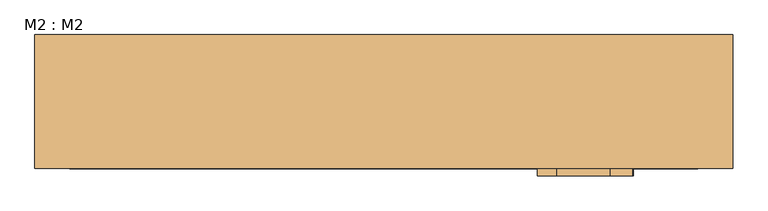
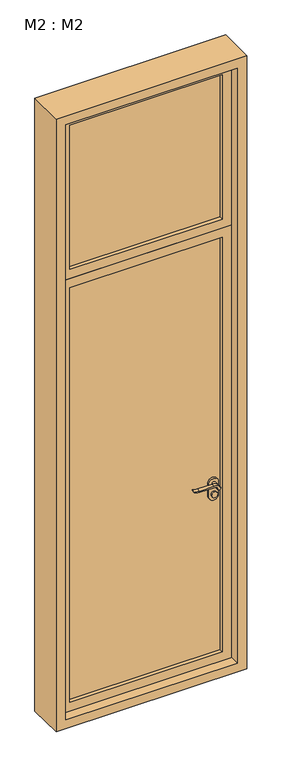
"""IFC4 building model written with IfcOpenShell, lengths in millimetres: door geometry, M2 : M2."""

from ifc_helpers import new_model, si_unit, point, frame, frame_2d, origin, place, context, project, spatial, polyline, circle_curve, trimmed, segment, composite_curve, outline, extrude, source, transform, mapped, element, save


def m2_m2_dfb05117(model_context):
    return source(origin(), model_context, "Body", "SweptSolid", [
        extrude(outline(composite_curve([segment(trimmed(circle_curve(frame_2d((1000.0, 350.0)), 15.0), [point((1000.0, 335.0))], [point((1000.0, 365.0))], False, "CARTESIAN"), True, "CONTINUOUS"), segment(trimmed(circle_curve(frame_2d((1000.0, 350.0)), 15.0), [point((1000.0, 365.0))], [point((1000.0, 335.0))], False, "CARTESIAN"), True, "CONTINUOUS")], self_intersect=False)), frame((0.0, -45.0, 0.0), z_axis=(0.0, 1.0, 0.0), x_axis=(0.0, 0.0, 1.0)), (0.0, 0.0, 1.0), 10.0),
        extrude(outline(composite_curve([segment(trimmed(circle_curve(frame_2d((1000.0, 350.0)), 15.0), [point((1000.0, 335.0))], [point((1000.0, 365.0))], False, "CARTESIAN"), True, "CONTINUOUS"), segment(trimmed(circle_curve(frame_2d((1000.0, 350.0)), 15.0), [point((1000.0, 365.0))], [point((1000.0, 335.0))], False, "CARTESIAN"), True, "CONTINUOUS")], self_intersect=False)), frame((0.0, 35.0, 0.0), z_axis=(0.0, 1.0, 0.0), x_axis=(0.0, 0.0, 1.0)), (0.0, 0.0, 1.0), 10.0),
        extrude(outline(composite_curve([segment(trimmed(circle_curve(frame_2d((1042.7555521, 326.3324871)), 37.2832219), [point((1064.6523287, 356.5081363))], [point((1080.0, 324.6325667))], False, "CARTESIAN"), True, "CONTINUOUS"), segment(polyline([(1080.0, 324.6325667), (1080.0, 248.3564091)]), True, "CONTINUOUS"), segment(trimmed(circle_curve(frame_2d((1163.2850638, 248.4227909)), 83.2850902), [point((1080.0, 248.3564091))], [point((1085.0, 220.0))], True, "CARTESIAN"), True, "CONTINUOUS"), segment(polyline([(1085.0, 220.0), (1082.2135558, 220.0)]), True, "CONTINUOUS"), segment(trimmed(circle_curve(frame_2d((1132.2709207, 251.9396612)), 59.3791355), [point((1082.2135558, 220.0))], [point((1073.0, 248.3564091))], False, "CARTESIAN"), True, "CONTINUOUS"), segment(polyline([(1073.0, 248.3564091), (1073.0, 324.6138099)]), True, "CONTINUOUS"), segment(trimmed(circle_curve(frame_2d((1054.8738613, 324.6138099)), 18.1261387), [point((1073.0, 324.6138099))], [point((1060.0, 342.0))], True, "CARTESIAN"), True, "CONTINUOUS"), segment(trimmed(circle_curve(frame_2d((1060.0, 350.0)), 8.0), [point((1060.0, 342.0))], [point((1064.6523287, 356.5081363))], False, "CARTESIAN"), True, "CONTINUOUS")], self_intersect=False)), frame((0.0, -85.0, 0.0), z_axis=(0.0, 1.0, 0.0), x_axis=(0.0, 0.0, 1.0)), (0.0, 0.0, 1.0), 20.0),
        extrude(outline(composite_curve([segment(trimmed(circle_curve(frame_2d((1060.0, 350.0)), 8.0), [point((1059.9999903, 342.0))], [point((1064.6523287, 356.5081363))], False, "CARTESIAN"), True, "CONTINUOUS"), segment(trimmed(circle_curve(frame_2d((1042.7555521, 326.3324871)), 37.2832219), [point((1064.6523287, 356.5081363))], [point((1080.0, 324.6325667))], False, "CARTESIAN"), True, "CONTINUOUS"), segment(polyline([(1080.0, 324.6325667), (1080.0, 248.3564091)]), True, "CONTINUOUS"), segment(trimmed(circle_curve(frame_2d((1163.2850638, 248.4227909)), 83.2850902), [point((1080.0, 248.3564091))], [point((1085.0, 220.0))], True, "CARTESIAN"), True, "CONTINUOUS"), segment(polyline([(1085.0, 220.0), (1082.2135558, 220.0)]), True, "CONTINUOUS"), segment(trimmed(circle_curve(frame_2d((1132.2709207, 251.9396612)), 59.3791355), [point((1082.2135558, 220.0))], [point((1073.0, 248.3564091))], False, "CARTESIAN"), True, "CONTINUOUS"), segment(polyline([(1073.0, 248.3564091), (1073.0, 324.6138122)]), True, "CONTINUOUS"), segment(trimmed(circle_curve(frame_2d((1054.8738682, 324.6138122)), 18.1261318), [point((1073.0, 324.6138122))], [point((1059.9999903, 342.0))], True, "CARTESIAN"), True, "CONTINUOUS")], self_intersect=False)), frame((0.0, 65.0, 0.0), z_axis=(0.0, 1.0, 0.0), x_axis=(0.0, 0.0, 1.0)), (0.0, 0.0, 1.0), 20.0),
        extrude(outline(composite_curve([segment(trimmed(circle_curve(frame_2d((1060.0, 350.0)), 8.0), [point((1060.0, 342.0))], [point((1060.0, 358.0))], False, "CARTESIAN"), True, "CONTINUOUS"), segment(trimmed(circle_curve(frame_2d((1060.0, 350.0)), 8.0), [point((1060.0, 358.0))], [point((1060.0, 342.0))], False, "CARTESIAN"), True, "CONTINUOUS")], self_intersect=False)), frame((0.0, -65.0, 0.0), z_axis=(0.0, 1.0, 0.0), x_axis=(0.0, 0.0, 1.0)), (0.0, 0.0, 1.0), 30.0),
        extrude(outline(composite_curve([segment(trimmed(circle_curve(frame_2d((1060.0, 350.0)), 8.0), [point((1060.0, 342.0))], [point((1060.0, 358.0))], False, "CARTESIAN"), True, "CONTINUOUS"), segment(trimmed(circle_curve(frame_2d((1060.0, 350.0)), 8.0), [point((1060.0, 358.0))], [point((1060.0, 342.0))], False, "CARTESIAN"), True, "CONTINUOUS")], self_intersect=False)), frame((0.0, 35.0, 0.0), z_axis=(0.0, 1.0, 0.0), x_axis=(0.0, 0.0, 1.0)), (0.0, 0.0, 1.0), 30.0),
        extrude(outline(composite_curve([segment(polyline([(990.0, 375.0), (1060.0, 375.0)]), True, "CONTINUOUS"), segment(trimmed(circle_curve(frame_2d((1060.0, 350.0)), 25.0), [point((1060.0, 375.0))], [point((1060.0, 325.0))], False, "CARTESIAN"), True, "CONTINUOUS"), segment(polyline([(1060.0, 325.0), (990.0, 325.0)]), True, "CONTINUOUS"), segment(trimmed(circle_curve(frame_2d((990.0, 350.0)), 25.0), [point((990.0, 325.0))], [point((990.0, 375.0))], False, "CARTESIAN"), True, "CONTINUOUS")], self_intersect=False)), frame((0.0, -35.0, 0.0), z_axis=(0.0, 1.0, 0.0), x_axis=(0.0, 0.0, 1.0)), (0.0, 0.0, 1.0), 10.0),
        extrude(outline(composite_curve([segment(polyline([(990.0, 375.0), (1060.0, 375.0)]), True, "CONTINUOUS"), segment(trimmed(circle_curve(frame_2d((1060.0, 350.0)), 25.0), [point((1060.0, 375.0))], [point((1060.0, 325.0))], False, "CARTESIAN"), True, "CONTINUOUS"), segment(polyline([(1060.0, 325.0), (990.0, 325.0)]), True, "CONTINUOUS"), segment(trimmed(circle_curve(frame_2d((990.0, 350.0)), 25.0), [point((990.0, 325.0))], [point((990.0, 375.0))], False, "CARTESIAN"), True, "CONTINUOUS")], self_intersect=False)), frame((0.0, 25.0, 0.0), z_axis=(0.0, 1.0, 0.0), x_axis=(0.0, 0.0, 1.0)), (0.0, 0.0, 1.0), 10.0),
        extrude(outline(polyline([(400.0, -5.2868922), (-400.0, -5.2868922), (-400.0, 4.7131078), (400.0, 4.7131078), (400.0, -5.2868922)])), frame((0.0, 0.0, 2500.0), z_axis=(0.0, 0.0, 1.0), x_axis=(1.0, 0.0, 0.0)), (0.0, 0.0, 1.0), 800.0),
        extrude(outline(polyline([(400.0, -5.2868922), (-400.0, -5.2868922), (-400.0, 4.7131078), (400.0, 4.7131078), (400.0, -5.2868922)])), frame((0.0, 0.0, 100.0), z_axis=(0.0, 0.0, 1.0), x_axis=(1.0, 0.0, 0.0)), (0.0, 0.0, 1.0), 2300.0),
        extrude(outline(polyline([(3350.0, 450.0), (3350.0, -450.0), (2450.0, -450.0), (2450.0, 450.0), (3350.0, 450.0)]), holes=[polyline([(3300.0, 400.0), (2500.0, 400.0), (2500.0, -400.0), (3300.0, -400.0), (3300.0, 400.0)])]), frame((0.0, -25.0, 0.0), z_axis=(0.0, 1.0, 0.0), x_axis=(0.0, 0.0, 1.0)), (0.0, 0.0, 1.0), 50.0),
        extrude(outline(polyline([(3400.0, 500.0), (3400.0, -500.0), (0.0, -500.0), (0.0, 500.0), (3400.0, 500.0)]), holes=[polyline([(3350.0, 450.0), (50.0, 450.0), (50.0, -450.0), (3350.0, -450.0), (3350.0, 450.0)])]), frame((0.0, -75.0, 0.0), z_axis=(0.0, 1.0, 0.0), x_axis=(0.0, 0.0, 1.0)), (0.0, 0.0, 1.0), 192.0),
        extrude(outline(polyline([(2450.0, 450.0), (2450.0, -450.0), (50.0, -450.0), (50.0, 450.0), (2450.0, 450.0)]), holes=[polyline([(2400.0, 400.0), (100.0, 400.0), (100.0, -400.0), (2400.0, -400.0), (2400.0, 400.0)])]), frame((0.0, -25.0, 0.0), z_axis=(0.0, 1.0, 0.0), x_axis=(0.0, 0.0, 1.0)), (0.0, 0.0, 1.0), 50.0),
    ])


if __name__ == "__main__":
    model = new_model("IFC4")
    model_context = context("Model", 3, world=origin())
    ifc_project = project(units=[si_unit("LENGTHUNIT", "METRE", prefix="MILLI")], contexts=[model_context])
    site = spatial("IfcSite", under=ifc_project)
    building = spatial("IfcBuilding", under=site)
    placement = place(None, origin())
    m2_m2_shape = m2_m2_dfb05117(model_context)
    element("IfcDoor", 1, ObjectType="M2 : M2", at=placement, inside=building, context=model_context, shape_type="MappedRepresentation", body=[
        mapped(m2_m2_shape, transform((0.0, 0.0, 0.0), x_axis=(1.0, 0.0, 0.0), y_axis=(0.0, 1.0, 0.0), z_axis=(0.0, 0.0, 1.0))),
    ])
    save(model, "model.ifc")
